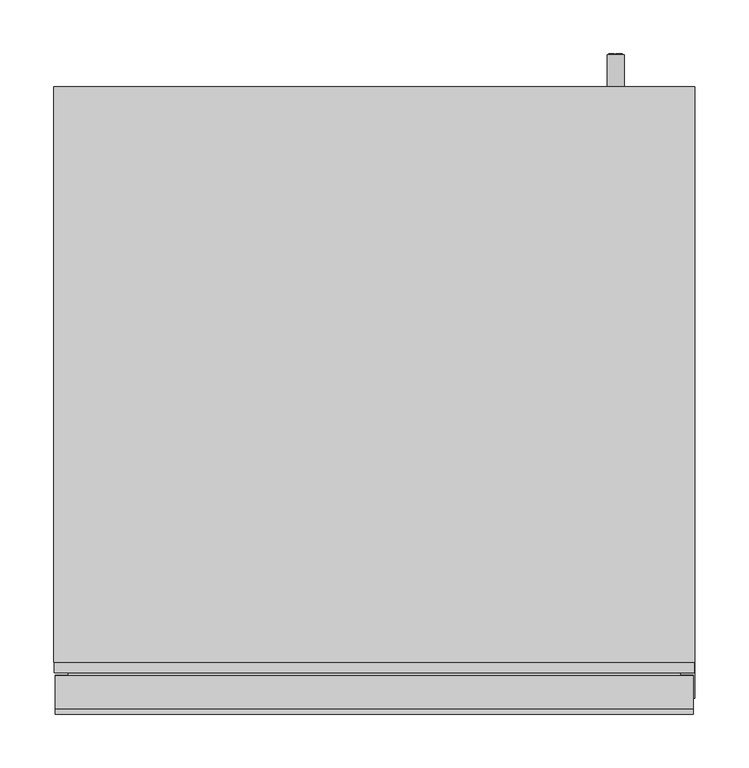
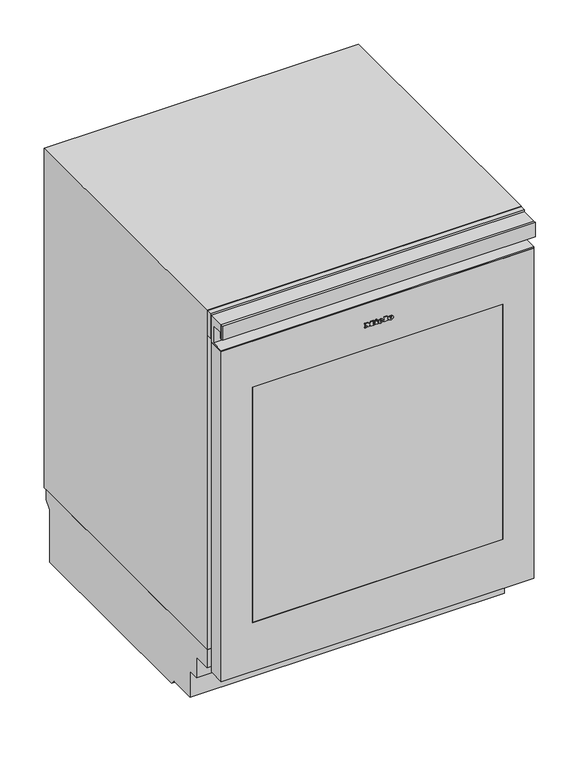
"""IFC4 building model written with IfcOpenShell, lengths in millimetres: proxy geometry, 12519500_EU1_KWTUS7055F_OBSW : 39705510_EU1_12519500_KWTUS7055F_OBSW."""

from ifc_helpers import new_model, si_unit, point, frame, frame_2d, origin, origin_with_axes, place, context, project, spatial, polyline, circle_curve, ellipse_curve, trimmed, segment, composite_curve, outline, extrude, faceted_brep, source, transform, mapped, element, save
from ifc_brep_helpers import plane_surface, cylinder_surface, revolved_surface, extruded_surface, advanced_brep


def specialty_equipment_8fe20f08(model_context):
    return source(origin(), model_context, "Body", "SolidModel", [
        extrude(outline(polyline([(722.339, -25.038), (722.339, -23.949), (716.318, -23.949), (716.318, -25.038), (714.806, -25.038), (714.806, -21.078), (716.318, -21.078), (716.318, -22.158), (720.1401247, -22.158), (714.806, -18.135), (720.2462223, -14.094), (716.318, -14.094), (716.318, -15.201), (714.806, -15.201), (714.806, -8.019), (716.318, -8.019), (716.318, -9.162), (722.339, -9.162), (722.339, -8.019), (723.806, -8.019), (723.806, -13.5), (720.431, -16.128), (723.806, -18.765), (723.806, -25.038), (722.339, -25.038)])), frame((0.0, -1.0, 0.0), z_axis=(0.0, 1.0, 0.0), x_axis=(0.0, 0.0, 1.0)), (0.0, 0.0, 1.0), 1.0),
        extrude(outline(polyline([(722.339, 11.484), (722.339, 12.564), (716.318, 12.564), (716.318, 11.484), (714.806, 11.484), (714.806, 18.783), (716.318, 18.783), (716.318, 17.676), (723.806, 17.676), (723.806, 11.484), (722.339, 11.484)])), frame((0.0, -1.0, 0.0), z_axis=(0.0, 1.0, 0.0), x_axis=(0.0, 0.0, 1.0)), (0.0, 0.0, 1.0), 1.0),
        extrude(outline(polyline([(723.275, -4.878), (721.817, -4.194), (723.239, -1.143), (724.697, -1.818), (723.275, -4.878)])), frame((0.0, -1.0, 0.0), z_axis=(0.0, 1.0, 0.0), x_axis=(0.0, 0.0, 1.0)), (0.0, 0.0, 1.0), 1.0),
        extrude(outline(polyline([(721.619, -7.101), (720.008, -7.101), (720.008, -6.03), (716.318, -6.03), (716.318, -7.101), (714.806, -7.101), (714.806, 0.0), (716.318, 0.0), (716.318, -1.044), (721.619, -1.044), (721.619, -7.101)])), frame((0.0, -1.0, 0.0), z_axis=(0.0, 1.0, 0.0), x_axis=(0.0, 0.0, 1.0)), (0.0, 0.0, 1.0), 1.0),
        advanced_brep(
        [(4.959, -1.0, 716.939), (4.959, -1.0, 717.848), (10.98, -1.0, 717.848), (0.504, -1.0, 717.848), (2.979, -1.0, 714.806), (10.827, -1.0, 716.939), (8.109, -1.0, 716.939), (5.967, -1.0, 715.931), (4.959, -1.0, 719.0), (4.959, -1.0, 719.981), (6.498, -1.0, 719.981), (6.498, -1.0, 719.0), (4.959, 0.0, 716.939), (5.967, 0.0, 715.931), (8.109, 0.0, 716.939), (10.827, 0.0, 716.939), (2.979, 0.0, 714.806), (0.504, 0.0, 717.848), (10.98, 0.0, 717.848), (4.959, 0.0, 717.848), (4.959, 0.0, 719.0), (6.498, 0.0, 719.0), (6.498, 0.0, 719.981), (4.959, 0.0, 719.981)],
        [
            (0, 1),
            (1, 2),
            (2, 3, ellipse_curve(frame((5.742, -1.0, 717.848), z_axis=(0.0, -1.0, 0.0), x_axis=(-1.0, 0.0, 0.0)), 5.238, 4.329)),
            (3, 4, circle_curve(frame((3.9870491, -1.0, 718.154), z_axis=(0.0, -1.0, 0.0), x_axis=(0.0, 0.0, -1.0)), 3.4964649)),
            (4, 5, circle_curve(frame((5.6371428, -1.0, 720.53), z_axis=(0.0, -1.0, 0.0), x_axis=(0.0, 0.0, -1.0)), 6.3110933)),
            (5, 6),
            (6, 7, circle_curve(frame((6.4069412, -1.0, 717.776), z_axis=(0.0, 1.0, 0.0), x_axis=(0.0, 0.0, -1.0)), 1.896727)),
            (7, 0, circle_curve(frame((5.967, -1.0, 716.939), z_axis=(0.0, 1.0, 0.0), x_axis=(0.0, 0.0, -1.0)), 1.008)),
            (8, 9),
            (9, 10, circle_curve(frame((5.7285, -1.0, 719.981), z_axis=(0.0, 1.0, 0.0), x_axis=(0.0, 0.0, -1.0)), 0.7695)),
            (10, 11),
            (11, 8),
            (12, 13, circle_curve(frame((5.967, 0.0, 716.939), z_axis=(0.0, -1.0, 0.0), x_axis=(0.0, 0.0, -1.0)), 1.008)),
            (13, 14, circle_curve(frame((6.4069412, 0.0, 717.776), z_axis=(0.0, -1.0, 0.0), x_axis=(0.0, 0.0, -1.0)), 1.896727)),
            (14, 15),
            (15, 16, circle_curve(frame((5.6371428, 0.0, 720.53), z_axis=(0.0, 1.0, 0.0), x_axis=(0.0, 0.0, -1.0)), 6.3110933)),
            (16, 17, circle_curve(frame((3.9870491, 0.0, 718.154), z_axis=(0.0, 1.0, 0.0), x_axis=(0.0, 0.0, -1.0)), 3.4964649)),
            (17, 18, ellipse_curve(frame((5.742, 0.0, 717.848), z_axis=(0.0, 1.0, 0.0), x_axis=(-1.0, 0.0, 0.0)), 5.238, 4.329)),
            (18, 19),
            (19, 12),
            (20, 21),
            (21, 22),
            (22, 23, circle_curve(frame((5.7285, 0.0, 719.981), z_axis=(0.0, -1.0, 0.0), x_axis=(0.0, 0.0, -1.0)), 0.7695)),
            (23, 20),
            (0, 12),
            (19, 1),
            (18, 2),
            (5, 15),
            (14, 6),
            (17, 3),
            (13, 7),
            (16, 4),
            (8, 20),
            (23, 9),
            (22, 10),
            (21, 11),
        ],
        [
            plane_surface(frame((4.959, -1.0, 717.848), z_axis=(0.0, -1.0, 0.0), x_axis=(0.0, 0.0, 1.0))),
            plane_surface(frame((4.959, 0.0, 717.848), z_axis=(0.0, 1.0, 0.0), x_axis=(0.0, 0.0, -1.0))),
            plane_surface(frame((4.959, -1.0, 716.939), z_axis=(1.0, 0.0, 0.0), x_axis=(0.0, 1.0, 0.0))),
            plane_surface(frame((4.959, -1.0, 717.848), z_axis=(0.0, 0.0, -1.0), x_axis=(0.0, 1.0, 0.0))),
            plane_surface(frame((10.827, -1.0, 716.939), z_axis=(0.0, 0.0, 1.0), x_axis=(0.0, 1.0, 0.0))),
            extruded_surface(trimmed(ellipse_curve(frame((5.742, 1.0, 717.848), z_axis=(0.0, -1.0, 0.0), x_axis=(-1.0, 0.0, 0.0)), 5.238, 4.329), [point((10.98, 1.0, 717.848))], [point((0.504, 1.0, 717.848))], True, "CARTESIAN"), (0.0, -1.0, 0.0), 1.0),
            revolved_surface(polyline([(6.4069412, 0.0, 715.8792729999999), (6.4069412, -1.0, 715.8792729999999)]), (6.4069412, 0.0, 717.776), (0.0, 1.0, 0.0)),
            revolved_surface(polyline([(5.967, 0.0, 715.9309999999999), (5.967, -1.0, 715.9309999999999)]), (5.967, 0.0, 716.939), (0.0, 1.0, 0.0)),
            cylinder_surface(frame((3.9870491, 0.0, 718.154), z_axis=(0.0, -1.0, 0.0), x_axis=(0.0, 0.0, -1.0)), 3.4964649),
            cylinder_surface(frame((5.6371428, 0.0, 720.53), z_axis=(0.0, -1.0, 0.0), x_axis=(0.0, 0.0, -1.0)), 6.3110933),
            plane_surface(frame((4.959, -1.0, 719.0), z_axis=(1.0, 0.0, 0.0), x_axis=(0.0, 1.0, 0.0))),
            revolved_surface(polyline([(5.7285, 0.0, 719.2115), (5.7285, -1.0, 719.2115)]), (5.7285, 0.0, 719.981), (0.0, 1.0, 0.0)),
            plane_surface(frame((6.498, -1.0, 719.981), z_axis=(-1.0, 0.0, 0.0), x_axis=(0.0, 1.0, 0.0))),
            plane_surface(frame((6.498, -1.0, 719.0), z_axis=(0.0, 0.0, 1.0), x_axis=(0.0, 1.0, 0.0))),
        ],
        [
            (0, [[1, 2, 3, 4, 5, 6, 7, 8], [9, 10, 11, 12]]),
            (1, [[13, 14, 15, 16, 17, 18, 19, 20], [21, 22, 23, 24]]),
            (2, [[-1, 25, -20, 26]]),
            (3, [[-2, -26, -19, 27]]),
            (4, [[-6, 28, -15, 29]]),
            (5, [[-3, -27, -18, 30]]),
            (6, [[-7, -29, -14, 31]]),
            (7, [[-8, -31, -13, -25]]),
            (8, [[-4, -30, -17, 32]]),
            (9, [[-5, -32, -16, -28]]),
            (10, [[-9, 33, -24, 34]]),
            (11, [[-10, -34, -23, 35]]),
            (12, [[-11, -35, -22, 36]]),
            (13, [[-12, -36, -21, -33]]),
        ],
    ),
        advanced_brep(
        [(23.742, -1.0, 716.939), (23.742, -1.0, 717.848), (29.763, -1.0, 717.848), (19.287, -1.0, 717.848), (21.762, -1.0, 714.806), (29.61, -1.0, 716.939), (26.892, -1.0, 716.939), (24.75, -1.0, 715.931), (23.742, -1.0, 719.0), (23.742, -1.0, 719.981), (25.281, -1.0, 719.981), (25.281, -1.0, 719.0), (23.742, 0.0, 716.939), (24.75, 0.0, 715.931), (26.892, 0.0, 716.939), (29.61, 0.0, 716.939), (21.762, 0.0, 714.806), (19.287, 0.0, 717.848), (29.763, 0.0, 717.848), (23.742, 0.0, 717.848), (23.742, 0.0, 719.0), (25.281, 0.0, 719.0), (25.281, 0.0, 719.981), (23.742, 0.0, 719.981)],
        [
            (0, 1),
            (1, 2),
            (2, 3, ellipse_curve(frame((24.525, -1.0, 717.848), z_axis=(0.0, -1.0, 0.0), x_axis=(-1.0, 0.0, 0.0)), 5.238, 4.329)),
            (3, 4, circle_curve(frame((22.7700491, -1.0, 718.154), z_axis=(0.0, -1.0, 0.0), x_axis=(0.0, 0.0, -1.0)), 3.4964649)),
            (4, 5, circle_curve(frame((24.4201428, -1.0, 720.53), z_axis=(0.0, -1.0, 0.0), x_axis=(0.0, 0.0, -1.0)), 6.3110933)),
            (5, 6),
            (6, 7, circle_curve(frame((25.1899412, -1.0, 717.776), z_axis=(0.0, 1.0, 0.0), x_axis=(0.0, 0.0, -1.0)), 1.896727)),
            (7, 0, circle_curve(frame((24.75, -1.0, 716.939), z_axis=(0.0, 1.0, 0.0), x_axis=(0.0, 0.0, -1.0)), 1.008)),
            (8, 9),
            (9, 10, circle_curve(frame((24.5115, -1.0, 719.981), z_axis=(0.0, 1.0, 0.0), x_axis=(0.0, 0.0, -1.0)), 0.7695)),
            (10, 11),
            (11, 8),
            (12, 13, circle_curve(frame((24.75, 0.0, 716.939), z_axis=(0.0, -1.0, 0.0), x_axis=(0.0, 0.0, -1.0)), 1.008)),
            (13, 14, circle_curve(frame((25.1899412, 0.0, 717.776), z_axis=(0.0, -1.0, 0.0), x_axis=(0.0, 0.0, -1.0)), 1.896727)),
            (14, 15),
            (15, 16, circle_curve(frame((24.4201428, 0.0, 720.53), z_axis=(0.0, 1.0, 0.0), x_axis=(0.0, 0.0, -1.0)), 6.3110933)),
            (16, 17, circle_curve(frame((22.7700491, 0.0, 718.154), z_axis=(0.0, 1.0, 0.0), x_axis=(0.0, 0.0, -1.0)), 3.4964649)),
            (17, 18, ellipse_curve(frame((24.525, 0.0, 717.848), z_axis=(0.0, 1.0, 0.0), x_axis=(-1.0, 0.0, 0.0)), 5.238, 4.329)),
            (18, 19),
            (19, 12),
            (20, 21),
            (21, 22),
            (22, 23, circle_curve(frame((24.5115, 0.0, 719.981), z_axis=(0.0, -1.0, 0.0), x_axis=(0.0, 0.0, -1.0)), 0.7695)),
            (23, 20),
            (0, 12),
            (19, 1),
            (18, 2),
            (5, 15),
            (14, 6),
            (17, 3),
            (13, 7),
            (16, 4),
            (8, 20),
            (23, 9),
            (22, 10),
            (21, 11),
        ],
        [
            plane_surface(frame((23.742, -1.0, 717.848), z_axis=(0.0, -1.0, 0.0), x_axis=(0.0, 0.0, 1.0))),
            plane_surface(frame((23.742, 0.0, 717.848), z_axis=(0.0, 1.0, 0.0), x_axis=(0.0, 0.0, -1.0))),
            plane_surface(frame((23.742, -1.0, 716.939), z_axis=(1.0, 0.0, 0.0), x_axis=(0.0, 1.0, 0.0))),
            plane_surface(frame((23.742, -1.0, 717.848), z_axis=(0.0, 0.0, -1.0), x_axis=(0.0, 1.0, 0.0))),
            plane_surface(frame((29.61, -1.0, 716.939), z_axis=(0.0, 0.0, 1.0), x_axis=(0.0, 1.0, 0.0))),
            extruded_surface(trimmed(ellipse_curve(frame((24.525, 1.0, 717.848), z_axis=(0.0, -1.0, 0.0), x_axis=(-1.0, 0.0, 0.0)), 5.238, 4.329), [point((29.763, 1.0, 717.848))], [point((19.287, 1.0, 717.848))], True, "CARTESIAN"), (0.0, -1.0, 0.0), 1.0),
            revolved_surface(polyline([(25.1899412, 0.0, 715.8792729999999), (25.1899412, -1.0, 715.8792729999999)]), (25.1899412, 0.0, 717.776), (0.0, 1.0, 0.0)),
            revolved_surface(polyline([(24.75, 0.0, 715.9309999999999), (24.75, -1.0, 715.9309999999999)]), (24.75, 0.0, 716.939), (0.0, 1.0, 0.0)),
            cylinder_surface(frame((22.7700491, 0.0, 718.154), z_axis=(0.0, -1.0, 0.0), x_axis=(0.0, 0.0, -1.0)), 3.4964649),
            cylinder_surface(frame((24.4201428, 0.0, 720.53), z_axis=(0.0, -1.0, 0.0), x_axis=(0.0, 0.0, -1.0)), 6.3110933),
            plane_surface(frame((23.742, -1.0, 719.0), z_axis=(1.0, 0.0, 0.0), x_axis=(0.0, 1.0, 0.0))),
            revolved_surface(polyline([(24.5115, 0.0, 719.2115), (24.5115, -1.0, 719.2115)]), (24.5115, 0.0, 719.981), (0.0, 1.0, 0.0)),
            plane_surface(frame((25.281, -1.0, 719.981), z_axis=(-1.0, 0.0, 0.0), x_axis=(0.0, 1.0, 0.0))),
            plane_surface(frame((25.281, -1.0, 719.0), z_axis=(0.0, 0.0, 1.0), x_axis=(0.0, 1.0, 0.0))),
        ],
        [
            (0, [[1, 2, 3, 4, 5, 6, 7, 8], [9, 10, 11, 12]]),
            (1, [[13, 14, 15, 16, 17, 18, 19, 20], [21, 22, 23, 24]]),
            (2, [[-1, 25, -20, 26]]),
            (3, [[-2, -26, -19, 27]]),
            (4, [[-6, 28, -15, 29]]),
            (5, [[-3, -27, -18, 30]]),
            (6, [[-7, -29, -14, 31]]),
            (7, [[-8, -31, -13, -25]]),
            (8, [[-4, -30, -17, 32]]),
            (9, [[-5, -32, -16, -28]]),
            (10, [[-9, 33, -24, 34]]),
            (11, [[-10, -34, -23, 35]]),
            (12, [[-11, -35, -22, 36]]),
            (13, [[-12, -36, -21, -33]]),
        ],
    ),
        extrude(outline(polyline([(699.491, -85.038), (699.491, -83.949), (693.47, -83.949), (693.47, -85.038), (691.958, -85.038), (691.958, -81.078), (693.47, -81.078), (693.47, -82.158), (697.2921247, -82.158), (691.958, -78.135), (697.3982223, -74.094), (693.47, -74.094), (693.47, -75.201), (691.958, -75.201), (691.958, -68.019), (693.47, -68.019), (693.47, -69.162), (699.491, -69.162), (699.491, -68.019), (700.958, -68.019), (700.958, -73.5), (697.583, -76.128), (700.958, -78.765), (700.958, -85.038), (699.491, -85.038)])), frame((0.0, 50.0, 0.0), z_axis=(0.0, 1.0, 0.0), x_axis=(0.0, 0.0, 1.0)), (0.0, 0.0, 1.0), 1.0),
        extrude(outline(polyline([(699.491, -48.516), (699.491, -47.436), (693.47, -47.436), (693.47, -48.516), (691.958, -48.516), (691.958, -41.217), (693.47, -41.217), (693.47, -42.324), (700.958, -42.324), (700.958, -48.516), (699.491, -48.516)])), frame((0.0, 50.0, 0.0), z_axis=(0.0, 1.0, 0.0), x_axis=(0.0, 0.0, 1.0)), (0.0, 0.0, 1.0), 1.0),
        extrude(outline(polyline([(700.427, -64.878), (698.969, -64.194), (700.391, -61.143), (701.849, -61.818), (700.427, -64.878)])), frame((0.0, 50.0, 0.0), z_axis=(0.0, 1.0, 0.0), x_axis=(0.0, 0.0, 1.0)), (0.0, 0.0, 1.0), 1.0),
        extrude(outline(polyline([(698.771, -67.101), (697.16, -67.101), (697.16, -66.03), (693.47, -66.03), (693.47, -67.101), (691.958, -67.101), (691.958, -60.0), (693.47, -60.0), (693.47, -61.044), (698.771, -61.044), (698.771, -67.101)])), frame((0.0, 50.0, 0.0), z_axis=(0.0, 1.0, 0.0), x_axis=(0.0, 0.0, 1.0)), (0.0, 0.0, 1.0), 1.0),
        advanced_brep(
        [(-55.041, 50.0, 694.091), (-55.041, 50.0, 695.0), (-49.02, 50.0, 695.0), (-59.496, 50.0, 695.0), (-57.021, 50.0, 691.958), (-49.173, 50.0, 694.091), (-51.891, 50.0, 694.091), (-54.033, 50.0, 693.083), (-55.041, 50.0, 696.152), (-55.041, 50.0, 697.133), (-53.502, 50.0, 697.133), (-53.502, 50.0, 696.152), (-55.041, 51.0, 694.091), (-54.033, 51.0, 693.083), (-51.891, 51.0, 694.091), (-49.173, 51.0, 694.091), (-57.021, 51.0, 691.958), (-59.496, 51.0, 695.0), (-49.02, 51.0, 695.0), (-55.041, 51.0, 695.0), (-55.041, 51.0, 696.152), (-53.502, 51.0, 696.152), (-53.502, 51.0, 697.133), (-55.041, 51.0, 697.133)],
        [
            (0, 1),
            (1, 2),
            (2, 3, ellipse_curve(frame((-54.258, 50.0, 695.0), z_axis=(0.0, -1.0, 0.0), x_axis=(-1.0, 0.0, 0.0)), 5.238, 4.329)),
            (3, 4, circle_curve(frame((-56.0129509, 50.0, 695.306), z_axis=(0.0, -1.0, 0.0), x_axis=(0.0, 0.0, -1.0)), 3.4964649)),
            (4, 5, circle_curve(frame((-54.3628572, 50.0, 697.682), z_axis=(0.0, -1.0, 0.0), x_axis=(0.0, 0.0, -1.0)), 6.3110933)),
            (5, 6),
            (6, 7, circle_curve(frame((-53.5930588, 50.0, 694.928), z_axis=(0.0, 1.0, 0.0), x_axis=(0.0, 0.0, -1.0)), 1.896727)),
            (7, 0, circle_curve(frame((-54.033, 50.0, 694.091), z_axis=(0.0, 1.0, 0.0), x_axis=(0.0, 0.0, -1.0)), 1.008)),
            (8, 9),
            (9, 10, circle_curve(frame((-54.2715, 50.0, 697.133), z_axis=(0.0, 1.0, 0.0), x_axis=(0.0, 0.0, -1.0)), 0.7695)),
            (10, 11),
            (11, 8),
            (12, 13, circle_curve(frame((-54.033, 51.0, 694.091), z_axis=(0.0, -1.0, 0.0), x_axis=(0.0, 0.0, -1.0)), 1.008)),
            (13, 14, circle_curve(frame((-53.5930588, 51.0, 694.928), z_axis=(0.0, -1.0, 0.0), x_axis=(0.0, 0.0, -1.0)), 1.896727)),
            (14, 15),
            (15, 16, circle_curve(frame((-54.3628572, 51.0, 697.682), z_axis=(0.0, 1.0, 0.0), x_axis=(0.0, 0.0, -1.0)), 6.3110933)),
            (16, 17, circle_curve(frame((-56.0129509, 51.0, 695.306), z_axis=(0.0, 1.0, 0.0), x_axis=(0.0, 0.0, -1.0)), 3.4964649)),
            (17, 18, ellipse_curve(frame((-54.258, 51.0, 695.0), z_axis=(0.0, 1.0, 0.0), x_axis=(-1.0, 0.0, 0.0)), 5.238, 4.329)),
            (18, 19),
            (19, 12),
            (20, 21),
            (21, 22),
            (22, 23, circle_curve(frame((-54.2715, 51.0, 697.133), z_axis=(0.0, -1.0, 0.0), x_axis=(0.0, 0.0, -1.0)), 0.7695)),
            (23, 20),
            (0, 12),
            (19, 1),
            (18, 2),
            (5, 15),
            (14, 6),
            (17, 3),
            (13, 7),
            (16, 4),
            (8, 20),
            (23, 9),
            (22, 10),
            (21, 11),
        ],
        [
            plane_surface(frame((-55.041, 50.0, 695.0), z_axis=(0.0, -1.0, 0.0), x_axis=(0.0, 0.0, 1.0))),
            plane_surface(frame((-55.041, 51.0, 695.0), z_axis=(0.0, 1.0, 0.0), x_axis=(0.0, 0.0, -1.0))),
            plane_surface(frame((-55.041, 50.0, 694.091), z_axis=(1.0, 0.0, 0.0), x_axis=(0.0, 1.0, 0.0))),
            plane_surface(frame((-55.041, 50.0, 695.0), z_axis=(0.0, 0.0, -1.0), x_axis=(0.0, 1.0, 0.0))),
            plane_surface(frame((-49.173, 50.0, 694.091), z_axis=(0.0, 0.0, 1.0), x_axis=(0.0, 1.0, 0.0))),
            extruded_surface(trimmed(ellipse_curve(frame((-54.258, 52.0, 695.0), z_axis=(0.0, -1.0, 0.0), x_axis=(-1.0, 0.0, 0.0)), 5.238, 4.329), [point((-49.02, 52.0, 695.0))], [point((-59.496, 52.0, 695.0))], True, "CARTESIAN"), (0.0, -1.0, 0.0), 1.0),
            revolved_surface(polyline([(-53.5930588, 51.0, 693.0312729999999), (-53.5930588, 50.0, 693.0312729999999)]), (-53.5930588, 51.0, 694.928), (0.0, 1.0, 0.0)),
            revolved_surface(polyline([(-54.033, 51.0, 693.083), (-54.033, 50.0, 693.083)]), (-54.033, 51.0, 694.091), (0.0, 1.0, 0.0)),
            cylinder_surface(frame((-56.0129509, 51.0, 695.306), z_axis=(0.0, -1.0, 0.0), x_axis=(0.0, 0.0, -1.0)), 3.4964649),
            cylinder_surface(frame((-54.3628572, 51.0, 697.682), z_axis=(0.0, -1.0, 0.0), x_axis=(0.0, 0.0, -1.0)), 6.3110933),
            plane_surface(frame((-55.041, 50.0, 696.152), z_axis=(1.0, 0.0, 0.0), x_axis=(0.0, 1.0, 0.0))),
            revolved_surface(polyline([(-54.2715, 51.0, 696.3635), (-54.2715, 50.0, 696.3635)]), (-54.2715, 51.0, 697.133), (0.0, 1.0, 0.0)),
            plane_surface(frame((-53.502, 50.0, 697.133), z_axis=(-1.0, 0.0, 0.0), x_axis=(0.0, 1.0, 0.0))),
            plane_surface(frame((-53.502, 50.0, 696.152), z_axis=(0.0, 0.0, 1.0), x_axis=(0.0, 1.0, 0.0))),
        ],
        [
            (0, [[1, 2, 3, 4, 5, 6, 7, 8], [9, 10, 11, 12]]),
            (1, [[13, 14, 15, 16, 17, 18, 19, 20], [21, 22, 23, 24]]),
            (2, [[-1, 25, -20, 26]]),
            (3, [[-2, -26, -19, 27]]),
            (4, [[-6, 28, -15, 29]]),
            (5, [[-3, -27, -18, 30]]),
            (6, [[-7, -29, -14, 31]]),
            (7, [[-8, -31, -13, -25]]),
            (8, [[-4, -30, -17, 32]]),
            (9, [[-5, -32, -16, -28]]),
            (10, [[-9, 33, -24, 34]]),
            (11, [[-10, -34, -23, 35]]),
            (12, [[-11, -35, -22, 36]]),
            (13, [[-12, -36, -21, -33]]),
        ],
    ),
        advanced_brep(
        [(-36.258, 50.0, 694.091), (-36.258, 50.0, 695.0), (-30.237, 50.0, 695.0), (-40.713, 50.0, 695.0), (-38.238, 50.0, 691.958), (-30.39, 50.0, 694.091), (-33.108, 50.0, 694.091), (-35.25, 50.0, 693.083), (-36.258, 50.0, 696.152), (-36.258, 50.0, 697.133), (-34.719, 50.0, 697.133), (-34.719, 50.0, 696.152), (-36.258, 51.0, 694.091), (-35.25, 51.0, 693.083), (-33.108, 51.0, 694.091), (-30.39, 51.0, 694.091), (-38.238, 51.0, 691.958), (-40.713, 51.0, 695.0), (-30.237, 51.0, 695.0), (-36.258, 51.0, 695.0), (-36.258, 51.0, 696.152), (-34.719, 51.0, 696.152), (-34.719, 51.0, 697.133), (-36.258, 51.0, 697.133)],
        [
            (0, 1),
            (1, 2),
            (2, 3, ellipse_curve(frame((-35.475, 50.0, 695.0), z_axis=(0.0, -1.0, 0.0), x_axis=(-1.0, 0.0, 0.0)), 5.238, 4.329)),
            (3, 4, circle_curve(frame((-37.2299509, 50.0, 695.306), z_axis=(0.0, -1.0, 0.0), x_axis=(0.0, 0.0, -1.0)), 3.4964649)),
            (4, 5, circle_curve(frame((-35.5798572, 50.0, 697.682), z_axis=(0.0, -1.0, 0.0), x_axis=(0.0, 0.0, -1.0)), 6.3110933)),
            (5, 6),
            (6, 7, circle_curve(frame((-34.8100588, 50.0, 694.928), z_axis=(0.0, 1.0, 0.0), x_axis=(0.0, 0.0, -1.0)), 1.896727)),
            (7, 0, circle_curve(frame((-35.25, 50.0, 694.091), z_axis=(0.0, 1.0, 0.0), x_axis=(0.0, 0.0, -1.0)), 1.008)),
            (8, 9),
            (9, 10, circle_curve(frame((-35.4885, 50.0, 697.133), z_axis=(0.0, 1.0, 0.0), x_axis=(0.0, 0.0, -1.0)), 0.7695)),
            (10, 11),
            (11, 8),
            (12, 13, circle_curve(frame((-35.25, 51.0, 694.091), z_axis=(0.0, -1.0, 0.0), x_axis=(0.0, 0.0, -1.0)), 1.008)),
            (13, 14, circle_curve(frame((-34.8100588, 51.0, 694.928), z_axis=(0.0, -1.0, 0.0), x_axis=(0.0, 0.0, -1.0)), 1.896727)),
            (14, 15),
            (15, 16, circle_curve(frame((-35.5798572, 51.0, 697.682), z_axis=(0.0, 1.0, 0.0), x_axis=(0.0, 0.0, -1.0)), 6.3110933)),
            (16, 17, circle_curve(frame((-37.2299509, 51.0, 695.306), z_axis=(0.0, 1.0, 0.0), x_axis=(0.0, 0.0, -1.0)), 3.4964649)),
            (17, 18, ellipse_curve(frame((-35.475, 51.0, 695.0), z_axis=(0.0, 1.0, 0.0), x_axis=(-1.0, 0.0, 0.0)), 5.238, 4.329)),
            (18, 19),
            (19, 12),
            (20, 21),
            (21, 22),
            (22, 23, circle_curve(frame((-35.4885, 51.0, 697.133), z_axis=(0.0, -1.0, 0.0), x_axis=(0.0, 0.0, -1.0)), 0.7695)),
            (23, 20),
            (0, 12),
            (19, 1),
            (18, 2),
            (5, 15),
            (14, 6),
            (17, 3),
            (13, 7),
            (16, 4),
            (8, 20),
            (23, 9),
            (22, 10),
            (21, 11),
        ],
        [
            plane_surface(frame((-36.258, 50.0, 695.0), z_axis=(0.0, -1.0, 0.0), x_axis=(0.0, 0.0, 1.0))),
            plane_surface(frame((-36.258, 51.0, 695.0), z_axis=(0.0, 1.0, 0.0), x_axis=(0.0, 0.0, -1.0))),
            plane_surface(frame((-36.258, 50.0, 694.091), z_axis=(1.0, 0.0, 0.0), x_axis=(0.0, 1.0, 0.0))),
            plane_surface(frame((-36.258, 50.0, 695.0), z_axis=(0.0, 0.0, -1.0), x_axis=(0.0, 1.0, 0.0))),
            plane_surface(frame((-30.39, 50.0, 694.091), z_axis=(0.0, 0.0, 1.0), x_axis=(0.0, 1.0, 0.0))),
            extruded_surface(trimmed(ellipse_curve(frame((-35.475, 52.0, 695.0), z_axis=(0.0, -1.0, 0.0), x_axis=(-1.0, 0.0, 0.0)), 5.238, 4.329), [point((-30.237, 52.0, 695.0))], [point((-40.713, 52.0, 695.0))], True, "CARTESIAN"), (0.0, -1.0, 0.0), 1.0),
            revolved_surface(polyline([(-34.8100588, 51.0, 693.0312729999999), (-34.8100588, 50.0, 693.0312729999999)]), (-34.8100588, 51.0, 694.928), (0.0, 1.0, 0.0)),
            revolved_surface(polyline([(-35.25, 51.0, 693.083), (-35.25, 50.0, 693.083)]), (-35.25, 51.0, 694.091), (0.0, 1.0, 0.0)),
            cylinder_surface(frame((-37.2299509, 51.0, 695.306), z_axis=(0.0, -1.0, 0.0), x_axis=(0.0, 0.0, -1.0)), 3.4964649),
            cylinder_surface(frame((-35.5798572, 51.0, 697.682), z_axis=(0.0, -1.0, 0.0), x_axis=(0.0, 0.0, -1.0)), 6.3110933),
            plane_surface(frame((-36.258, 50.0, 696.152), z_axis=(1.0, 0.0, 0.0), x_axis=(0.0, 1.0, 0.0))),
            revolved_surface(polyline([(-35.4885, 51.0, 696.3635), (-35.4885, 50.0, 696.3635)]), (-35.4885, 51.0, 697.133), (0.0, 1.0, 0.0)),
            plane_surface(frame((-34.719, 50.0, 697.133), z_axis=(-1.0, 0.0, 0.0), x_axis=(0.0, 1.0, 0.0))),
            plane_surface(frame((-34.719, 50.0, 696.152), z_axis=(0.0, 0.0, 1.0), x_axis=(0.0, 1.0, 0.0))),
        ],
        [
            (0, [[1, 2, 3, 4, 5, 6, 7, 8], [9, 10, 11, 12]]),
            (1, [[13, 14, 15, 16, 17, 18, 19, 20], [21, 22, 23, 24]]),
            (2, [[-1, 25, -20, 26]]),
            (3, [[-2, -26, -19, 27]]),
            (4, [[-6, 28, -15, 29]]),
            (5, [[-3, -27, -18, 30]]),
            (6, [[-7, -29, -14, 31]]),
            (7, [[-8, -31, -13, -25]]),
            (8, [[-4, -30, -17, 32]]),
            (9, [[-5, -32, -16, -28]]),
            (10, [[-9, 33, -24, 34]]),
            (11, [[-10, -34, -23, 35]]),
            (12, [[-11, -35, -22, 36]]),
            (13, [[-12, -36, -21, -33]]),
        ],
    ),
        extrude(outline(polyline([(577.8, -157.5), (582.5052612, -157.5), (586.5052612, -161.5), (586.5052612, -168.5), (582.5052612, -172.5), (577.8, -172.5), (577.8, -157.5)])), frame((0.0, 54.5000244, 0.0), z_axis=(0.0, 1.0, 0.0), x_axis=(0.0, 0.0, 1.0)), (0.0, 0.0, 1.0), 433.111792),
        extrude(outline(polyline([(577.8, -102.5), (582.5052612, -102.5), (586.5052612, -106.5), (586.5052612, -113.5), (582.5052612, -117.5), (577.8, -117.5), (577.8, -102.5)])), frame((0.0, 54.5000244, 0.0), z_axis=(0.0, 1.0, 0.0), x_axis=(0.0, 0.0, 1.0)), (0.0, 0.0, 1.0), 433.111792),
        extrude(outline(polyline([(577.8, 157.5), (577.8, 172.5), (582.5052612, 172.5), (586.5052612, 168.5), (586.5052612, 161.5), (582.5052612, 157.5), (577.8, 157.5)])), frame((0.0, 54.5000244, 0.0), z_axis=(0.0, 1.0, 0.0), x_axis=(0.0, 0.0, 1.0)), (0.0, 0.0, 1.0), 433.111792),
        extrude(outline(polyline([(577.8, 102.5), (577.8, 117.5), (582.5052612, 117.5), (586.5052612, 113.5), (586.5052612, 106.5), (582.5052612, 102.5), (577.8, 102.5)])), frame((0.0, 54.5000244, 0.0), z_axis=(0.0, 1.0, 0.0), x_axis=(0.0, 0.0, 1.0)), (0.0, 0.0, 1.0), 433.111792),
        extrude(outline(polyline([(577.8, -47.5), (582.5052612, -47.5), (586.5052612, -51.5), (586.5052612, -58.5), (582.5052612, -62.5), (577.8, -62.5), (577.8, -47.5)])), frame((0.0, 54.5000244, 0.0), z_axis=(0.0, 1.0, 0.0), x_axis=(0.0, 0.0, 1.0)), (0.0, 0.0, 1.0), 433.111792),
        extrude(outline(polyline([(577.8, 47.5), (577.8, 62.5), (582.5052612, 62.5), (586.5052612, 58.5), (586.5052612, 51.5), (582.5052612, 47.5), (577.8, 47.5)])), frame((0.0, 54.5000244, 0.0), z_axis=(0.0, 1.0, 0.0), x_axis=(0.0, 0.0, 1.0)), (0.0, 0.0, 1.0), 433.111792),
        extrude(outline(polyline([(577.8, 7.5), (582.5052612, 7.5), (586.5052612, 3.5), (586.5052612, -3.5), (582.5052612, -7.5), (577.8, -7.5), (577.8, 7.5)])), frame((0.0, 54.5000244, 0.0), z_axis=(0.0, 1.0, 0.0), x_axis=(0.0, 0.0, 1.0)), (0.0, 0.0, 1.0), 433.111792),
        extrude(outline(polyline([(238.5, 51.0000244), (-238.5, 51.0000244), (-238.5, 54.5000244), (238.5, 54.5000244), (238.5, 51.0000244)])), frame((0.0, 0.0, 276.0), z_axis=(0.0, 0.0, 1.0), x_axis=(1.0, 0.0, 0.0)), (0.0, 0.0, 1.0), 27.5),
        extrude(outline(polyline([(238.5, 51.0000244), (-238.5, 51.0000244), (-238.5, 54.5000244), (238.5, 54.5000244), (238.5, 51.0000244)])), frame((0.0, 0.0, 573.0), z_axis=(0.0, 0.0, 1.0), x_axis=(1.0, 0.0, 0.0)), (0.0, 0.0, 1.0), 27.5),
        faceted_brep([(250.0, 51.0000244, 719.0), (-250.0, 51.0000244, 719.0), (-250.0, 51.0000244, 665.5838574), (250.0, 51.0000244, 665.5838574), (24.4663125, 51.0000244, 676.4573822), (-24.4663125, 51.0000244, 676.4573822), (-24.4663125, 51.0000244, 712.8698491), (24.4663125, 51.0000244, 712.8698491), (250.0, 487.6118164, 719.0), (250.0, 487.6118164, 665.5838574), (-250.0, 487.6118164, 665.5838574), (-250.0, 487.6118164, 719.0), (24.4663125, 80.5000244, 676.4573822), (24.4663125, 80.5000244, 712.8698491), (-24.4663125, 80.5000244, 712.8698491), (-24.4663125, 80.5000244, 676.4573822)], [[[0, 1, 2, 3], [4, 5, 6, 7]], [[8, 9, 10, 11]], [[1, 0, 8, 11]], [[2, 1, 11, 10]], [[3, 2, 10, 9]], [[0, 3, 9, 8]], [[12, 13, 14, 15]], [[12, 15, 5, 4]], [[15, 14, 6, 5]], [[14, 13, 7, 6]], [[13, 12, 4, 7]]]),
        extrude(outline(polyline([(238.5, 487.6118164), (-238.5, 487.6118164), (-238.5, 491.1118408), (238.5, 491.1118408), (238.5, 487.6118164)])), frame((0.0, 0.0, 573.0), z_axis=(0.0, 0.0, 1.0), x_axis=(1.0, 0.0, 0.0)), (0.0, 0.0, 1.0), 27.5),
        extrude(outline(polyline([(238.5, 487.6118164), (-238.5, 487.6118164), (-238.5, 491.1118408), (238.5, 491.1118408), (238.5, 487.6118164)])), frame((0.0, 0.0, 276.0), z_axis=(0.0, 0.0, 1.0), x_axis=(1.0, 0.0, 0.0)), (0.0, 0.0, 1.0), 27.5),
        extrude(outline(polyline([(-197.5, 210.0000244), (-215.5, 210.0000244), (-215.5, 330.0000244), (-197.5, 330.0000244), (-197.5, 210.0000244)])), frame((0.0, 0.0, 290.9498338), z_axis=(0.0, 0.0, 1.0), x_axis=(1.0, 0.0, 0.0)), (0.0, 0.0, 1.0), 228.0501662),
        extrude(outline(polyline([(-115.0415667, 56.5000244), (-215.5, 56.5000244), (-215.5, 483.5000244), (-115.0415667, 483.5000244), (-115.0415667, 56.5000244)])), frame((0.0, 0.0, 519.0), z_axis=(0.0, 0.0, 1.0), x_axis=(1.0, 0.0, 0.0)), (0.0, 0.0, 1.0), 20.0),
        extrude(outline(polyline([(238.5, 487.6118164), (-238.5, 487.6118164), (-238.5, 491.1118408), (238.5, 491.1118408), (238.5, 487.6118164)])), frame((0.0, 0.0, 574.0), z_axis=(0.0, 0.0, 1.0), x_axis=(1.0, 0.0, 0.0)), (0.0, 0.0, 1.0), 27.5),
        extrude(outline(polyline([(130.5000244, 149.7947388), (115.5000244, 149.7947388), (115.5000244, 154.5), (119.5000244, 158.5), (126.5000244, 158.5), (130.5000244, 154.5), (130.5000244, 149.7947388)])), frame((-216.555896, 0.0, 0.0), z_axis=(1.0, 0.0, 0.0), x_axis=(0.0, 1.0, 0.0)), (0.0, 0.0, 1.0), 433.111792),
        extrude(outline(polyline([(192.5000244, 149.7947388), (177.5000244, 149.7947388), (177.5000244, 154.5), (181.5000244, 158.5), (188.5000244, 158.5), (192.5000244, 154.5), (192.5000244, 149.7947388)])), frame((-216.555896, 0.0, 0.0), z_axis=(1.0, 0.0, 0.0), x_axis=(0.0, 1.0, 0.0)), (0.0, 0.0, 1.0), 433.111792),
        extrude(outline(polyline([(254.5000244, 149.7947388), (239.5000244, 149.7947388), (239.5000244, 154.5), (243.5000244, 158.5), (250.5000244, 158.5), (254.5000244, 154.5), (254.5000244, 149.7947388)])), frame((-216.555896, 0.0, 0.0), z_axis=(1.0, 0.0, 0.0), x_axis=(0.0, 1.0, 0.0)), (0.0, 0.0, 1.0), 433.111792),
        extrude(outline(polyline([(301.5000244, 149.7947388), (301.5000244, 154.5), (305.5000244, 158.5), (312.5000244, 158.5), (316.5000244, 154.5), (316.5000244, 149.7947388), (301.5000244, 149.7947388)])), frame((-216.555896, 0.0, 0.0), z_axis=(1.0, 0.0, 0.0), x_axis=(0.0, 1.0, 0.0)), (0.0, 0.0, 1.0), 433.111792),
        extrude(outline(polyline([(24.4663125, 51.0000244), (-24.4663125, 51.0000244), (-24.4663125, 80.5000244), (24.4663125, 80.5000244), (24.4663125, 51.0000244)])), frame((0.0, 0.0, 676.4573822), z_axis=(0.0, 0.0, 1.0), x_axis=(1.0, 0.0, 0.0)), (0.0, 0.0, 1.0), 36.4124668),
        extrude(outline(polyline([(238.5, 54.5000244), (219.7422474, 54.5000244), (219.7422474, 487.6118164), (238.5, 487.6118164), (238.5, 54.5000244)])), frame((0.0, 0.0, 573.0), z_axis=(0.0, 0.0, 1.0), x_axis=(1.0, 0.0, 0.0)), (0.0, 0.0, 1.0), 27.5),
        extrude(outline(polyline([(-219.7422474, 54.5000244), (-238.5, 54.5000244), (-238.5, 487.6118164), (-219.7422474, 487.6118164), (-219.7422474, 54.5000244)])), frame((0.0, 0.0, 573.0), z_axis=(0.0, 0.0, 1.0), x_axis=(1.0, 0.0, 0.0)), (0.0, 0.0, 1.0), 27.5),
        extrude(outline(polyline([(54.5000244, 232.4639133), (54.5000244, 276.0), (483.5000244, 276.0), (483.5000244, 270.7277703), (257.9509548, 270.7277703), (257.9509548, 232.4639133), (54.5000244, 232.4639133)])), frame((96.0500031, 0.0, 0.0), z_axis=(1.0, 0.0, 0.0), x_axis=(0.0, 1.0, 0.0)), (0.0, 0.0, 1.0), 115.0),
        extrude(outline(polyline([(483.5000244, 339.1000061), (483.5000244, 290.9498338), (54.5000244, 290.9498338), (54.5000244, 296.2848052), (270.5000244, 296.2848052), (270.5000244, 339.1000061), (483.5000244, 339.1000061)])), frame((96.0500031, 0.0, 0.0), z_axis=(1.0, 0.0, 0.0), x_axis=(0.0, 1.0, 0.0)), (0.0, 0.0, 1.0), 115.0),
        extrude(outline(polyline([(238.5, 487.6118164), (238.5, 54.5000244), (-238.5, 54.5000244), (-238.5, 487.6118164), (238.5, 487.6118164)])), frame((0.0, 0.0, 276.0), z_axis=(0.0, 0.0, 1.0), x_axis=(1.0, 0.0, 0.0)), (0.0, 0.0, 1.0), 14.9498338),
        extrude(outline(polyline([(298.0, 34.0937347), (-298.0, 34.0937347), (-298.0, 44.0), (298.0, 44.0), (298.0, 34.0937347)])), frame((0.0, 0.0, 768.7051238), z_axis=(0.0, 0.0, 1.0), x_axis=(1.0, 0.0, 0.0)), (0.0, 0.0, 1.0), 48.9938508),
        faceted_brep([(-298.5, 573.5, 137.8999939), (-298.5, 573.5, 117.6051112), (-298.5, 561.0, 105.1051112), (-298.5, 561.0, 0.0), (-298.5, 161.2567793, 0.0), (-298.5, 152.9391747, 8.3176046), (-298.5, 100.0, 8.3176046), (-298.5, 100.0, 60.7725754), (-298.5, 79.0216446, 60.7725754), (-298.5, 79.0216446, 101.8184894), (-298.5, 44.0, 101.8184894), (-298.5, 44.0, 137.8999939), (298.5, 573.5, 137.8999939), (298.5, 44.0, 137.8999939), (298.5, 44.0, 101.8184894), (298.5, 79.0216446, 101.8184894), (298.5, 79.0216446, 60.7725754), (298.5, 100.0, 60.7725754), (298.5, 100.0, 8.3176046), (298.5, 152.9391747, 8.3176046), (298.5, 161.2567793, 0.0), (298.5, 561.0, 0.0), (298.5, 561.0, 105.1051112), (298.5, 573.5, 117.6051112), (296.7000122, 487.2596389, 0.0), (256.5957336, 487.2596389, 0.0), (256.5957336, 422.5975098, 0.0), (296.7000122, 422.5975098, 0.0), (-296.7000122, 487.2596389, 0.0), (-296.7000122, 422.5975098, 0.0), (-256.5957336, 422.5975098, 0.0), (-256.5957336, 487.2596389, 0.0), (296.7000122, 487.2596389, 8.7371401), (296.7000122, 422.5975098, 8.7371401), (256.5957336, 422.5975098, 8.7371401), (256.5957336, 487.2596389, 8.7371401), (-296.7000122, 487.2596389, 8.7371401), (-256.5957336, 487.2596389, 8.7371401), (-256.5957336, 422.5975098, 8.7371401), (-296.7000122, 422.5975098, 8.7371401)], [[[0, 1, 2, 3, 4, 5, 6, 7, 8, 9, 10, 11]], [[12, 13, 14, 15, 16, 17, 18, 19, 20, 21, 22, 23]], [[0, 11, 13, 12]], [[11, 10, 14, 13]], [[10, 9, 15, 14]], [[9, 8, 16, 15]], [[8, 7, 17, 16]], [[7, 6, 18, 17]], [[6, 5, 19, 18]], [[5, 4, 20, 19]], [[4, 3, 21, 20], [24, 25, 26, 27], [28, 29, 30, 31]], [[3, 2, 22, 21]], [[2, 1, 23, 22]], [[1, 0, 12, 23]], [[32, 33, 34, 35]], [[36, 37, 38, 39]], [[32, 35, 25, 24]], [[35, 34, 26, 25]], [[34, 33, 27, 26]], [[33, 32, 24, 27]], [[36, 39, 29, 28]], [[39, 38, 30, 29]], [[38, 37, 31, 30]], [[37, 36, 28, 31]]]),
        faceted_brep([(298.5, 44.0, 819.0), (298.5, 44.0, 137.8999939), (298.5, 579.6, 137.8999939), (298.5, 579.6, 819.0), (-298.5, 44.0, 819.0), (-298.5, 579.6, 819.0), (-298.5, 579.6, 137.8999939), (-298.5, 44.0, 137.8999939), (250.0, 44.0, 719.0), (250.0, 44.0, 150.0), (-250.0, 44.0, 150.0), (-250.0, 44.0, 719.0), (250.0, 534.2638012, 150.0), (250.0, 534.2638012, 719.0), (-250.0, 534.2638012, 719.0), (-250.0, 534.2638012, 150.0)], [[[0, 1, 2, 3]], [[4, 5, 6, 7]], [[1, 0, 4, 7], [8, 9, 10, 11]], [[2, 1, 7, 6]], [[3, 2, 6, 5]], [[0, 3, 5, 4]], [[12, 13, 14, 15]], [[13, 12, 9, 8]], [[14, 13, 8, 11]], [[15, 14, 11, 10]], [[12, 15, 10, 9]]]),
        extrude(outline(polyline([(250.0, 534.2638012), (250.0, 362.7), (-250.0, 362.7), (-250.0, 534.2638012), (250.0, 534.2638012)])), frame((0.0, 0.0, 150.0), z_axis=(0.0, 0.0, 1.0), x_axis=(1.0, 0.0, 0.0)), (0.0, 0.0, 1.0), 71.8999939),
        extrude(outline(composite_curve([segment(trimmed(circle_curve(frame_2d((-270.8532135, 136.0)), 15.7049948), [point((-286.5582083, 136.0))], [point((-255.1482187, 136.0))], False, "CARTESIAN"), True, "CONTINUOUS"), segment(trimmed(circle_curve(frame_2d((-270.8532135, 136.0)), 15.7049948), [point((-255.1482187, 136.0))], [point((-286.5582083, 136.0))], False, "CARTESIAN"), True, "CONTINUOUS")], self_intersect=False)), origin_with_axes(), (0.0, 0.0, 1.0), 8.3176046),
        extrude(outline(composite_curve([segment(trimmed(circle_curve(frame_2d((270.8532135, 136.0)), 15.7049948), [point((286.5582083, 136.0))], [point((255.1482187, 136.0))], False, "CARTESIAN"), True, "CONTINUOUS"), segment(trimmed(circle_curve(frame_2d((270.8532135, 136.0)), 15.7049948), [point((255.1482187, 136.0))], [point((286.5582083, 136.0))], False, "CARTESIAN"), True, "CONTINUOUS")], self_intersect=False)), origin_with_axes(), (0.0, 0.0, 1.0), 8.3176046),
        extrude(outline(composite_curve([segment(trimmed(circle_curve(frame_2d((-275.822369, 461.1)), 16.0), [point((-291.822369, 461.1))], [point((-259.822369, 461.1))], False, "CARTESIAN"), True, "CONTINUOUS"), segment(trimmed(circle_curve(frame_2d((-275.822369, 461.1)), 16.0), [point((-259.822369, 461.1))], [point((-291.822369, 461.1))], False, "CARTESIAN"), True, "CONTINUOUS")], self_intersect=False)), origin_with_axes(), (0.0, 0.0, 1.0), 8.3176046),
        extrude(outline(composite_curve([segment(trimmed(circle_curve(frame_2d((275.822369, 461.1)), 16.0), [point((259.822369, 461.1))], [point((291.822369, 461.1))], False, "CARTESIAN"), True, "CONTINUOUS"), segment(trimmed(circle_curve(frame_2d((275.822369, 461.1)), 16.0), [point((291.822369, 461.1))], [point((259.822369, 461.1))], False, "CARTESIAN"), True, "CONTINUOUS")], self_intersect=False)), origin_with_axes(), (0.0, 0.0, 1.0), 8.3176046),
        extrude(outline(composite_curve([segment(trimmed(circle_curve(frame_2d((144.2460785, 224.8152695)), 8.0), [point((144.2460785, 216.8152695))], [point((144.2460785, 232.8152695))], False, "CARTESIAN"), True, "CONTINUOUS"), segment(trimmed(circle_curve(frame_2d((144.2460785, 224.8152695)), 8.0), [point((144.2460785, 232.8152695))], [point((144.2460785, 216.8152695))], False, "CARTESIAN"), True, "CONTINUOUS")], self_intersect=False)), frame((0.0, 579.6, 0.0), z_axis=(0.0, 1.0, 0.0), x_axis=(0.0, 0.0, 1.0)), (0.0, 0.0, 1.0), 30.0),
        extrude(outline(polyline([(140.2460785, 230.7170777), (148.2825833, 230.7170777), (148.2825833, 224.9408399), (147.2780202, 224.9408399), (147.2780202, 229.7125146), (144.8921828, 229.7125146), (144.8921828, 225.1919806), (143.8876197, 225.1919806), (143.8876197, 229.7125146), (141.2506416, 229.7125146), (141.2506416, 224.8152695), (140.2460785, 224.8152695), (140.2460785, 230.7170777)])), frame((0.0, 609.6, 0.0), z_axis=(0.0, 1.0, 0.0), x_axis=(0.0, 0.0, 1.0)), (0.0, 0.0, 1.0), 1.0),
        extrude(outline(polyline([(140.2460785, 223.3084248), (148.2825833, 223.3084248), (148.2825833, 222.3038617), (141.2506416, 222.3038617), (141.2506416, 218.2856093), (140.2460785, 218.2856093), (140.2460785, 223.3084248)])), frame((0.0, 609.6, 0.0), z_axis=(0.0, 1.0, 0.0), x_axis=(0.0, 0.0, 1.0)), (0.0, 0.0, 1.0), 1.0),
        faceted_brep([(297.0, 0.0, 762.0), (-297.0, 0.0, 762.0), (-297.0, 0.0, 100.0), (297.0, 0.0, 100.0), (-238.0, 0.0, 670.0), (238.0, 0.0, 670.0), (238.0, 0.0, 198.0), (-238.0, 0.0, 198.0), (297.0, 32.0, 100.0), (-297.0, 32.0, 100.0), (-297.0, 32.0, 762.0), (297.0, 32.0, 762.0), (297.0, 32.0, 145.5520399), (190.2289267, 32.0, 145.5520399), (190.2289267, 32.0, 100.9715583), (297.0, 32.0, 100.9715583), (238.0, 32.0, 670.0), (-238.0, 32.0, 670.0), (-238.0, 32.0, 198.0), (238.0, 32.0, 198.0), (297.0, 10.6130013, 100.9715583), (297.0, 10.6130013, 145.5520399), (190.2289267, 10.6130013, 145.5520399), (190.2289267, 10.6130013, 100.9715583)], [[[0, 1, 2, 3], [4, 5, 6, 7]], [[8, 9, 10, 11, 12, 13, 14, 15], [16, 17, 18, 19]], [[1, 0, 11, 10]], [[2, 1, 10, 9]], [[3, 2, 9, 8]], [[0, 3, 8, 15, 20, 21, 12, 11]], [[16, 5, 4, 17]], [[17, 4, 7, 18]], [[18, 7, 6, 19]], [[5, 16, 19, 6]], [[21, 22, 13, 12]], [[14, 23, 20, 15]], [[23, 22, 21, 20]], [[22, 23, 14, 13]]]),
        extrude(outline(polyline([(764.5, 285.0), (764.5, -285.0), (148.5030441, -285.0), (148.5030441, 285.0), (764.5, 285.0)]), holes=[polyline([(670.0, -238.0), (670.0, 238.0), (198.0, 238.0), (198.0, -238.0), (670.0, -238.0)])]), frame((0.0, 32.0, 0.0), z_axis=(0.0, 1.0, 0.0), x_axis=(0.0, 0.0, 1.0)), (0.0, 0.0, 1.0), 12.0),
        extrude(outline(polyline([(297.0, 0.0), (297.0, -4.3999998), (-297.0, -4.3999998), (-297.0, 0.0), (297.0, 0.0)])), frame((0.0, 0.0, 787.8718872), z_axis=(0.0, 0.0, 1.0), x_axis=(1.0, 0.0, 0.0)), (0.0, 0.0, 1.0), 28.4282238),
        extrude(outline(polyline([(31.449995, 816.3006898), (31.449995, 762.0), (0.0, 762.0), (0.0, 764.3706666), (25.2610212, 764.3706666), (25.2610212, 799.0085449), (3.0130013, 799.0085449), (3.0130013, 787.161485), (0.0, 787.161485), (0.0, 816.3006898), (31.449995, 816.3006898)])), frame((-297.0, 0.0, 0.0), z_axis=(1.0, 0.0, 0.0), x_axis=(0.0, 1.0, 0.0)), (0.0, 0.0, 1.0), 594.0),
        extrude(outline(polyline([(238.0, 0.0), (-238.0, 0.0), (-238.0, 32.0), (238.0, 32.0), (238.0, 0.0)])), frame((0.0, 0.0, 197.9069346), z_axis=(0.0, 0.0, 1.0), x_axis=(1.0, 0.0, 0.0)), (0.0, 0.0, 1.0), 472.0930654),
        extrude(outline(polyline([(298.5, 10.6130013), (190.2289267, 10.6130013), (190.2289267, 44.0), (298.5, 44.0), (298.5, 10.6130013)])), frame((0.0, 0.0, 100.0), z_axis=(0.0, 0.0, 1.0), x_axis=(1.0, 0.0, 0.0)), (0.0, 0.0, 1.0), 41.0),
    ])


if __name__ == "__main__":
    model = new_model("IFC4")
    model_context = context("Model", 3, world=origin())
    ifc_project = project(units=[si_unit("LENGTHUNIT", "METRE", prefix="MILLI")], contexts=[model_context])
    site = spatial("IfcSite", under=ifc_project)
    building = spatial("IfcBuilding", under=site)
    placement = place(None, origin())
    specialty_equipment_shape = specialty_equipment_8fe20f08(model_context)
    element("IfcBuildingElementProxy", 1, Name="12519500_EU1_KWTUS7055F_OBSW : 39705510_EU1_12519500_KWTUS7055F_OBSW", ObjectType="12519500_EU1_KWTUS7055F_OBSW : 39705510_EU1_12519500_KWTUS7055F_OBSW", at=placement, inside=building, context=model_context, shape_type="MappedRepresentation", body=[
        mapped(specialty_equipment_shape, transform((0.0, 0.0, 0.0), x_axis=(1.0, 0.0, 0.0), y_axis=(0.0, 1.0, 0.0), z_axis=(0.0, 0.0, 1.0))),
    ])
    save(model, "model.ifc")
